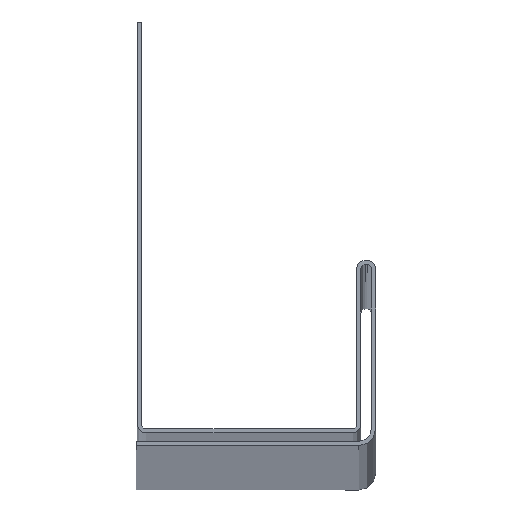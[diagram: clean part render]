
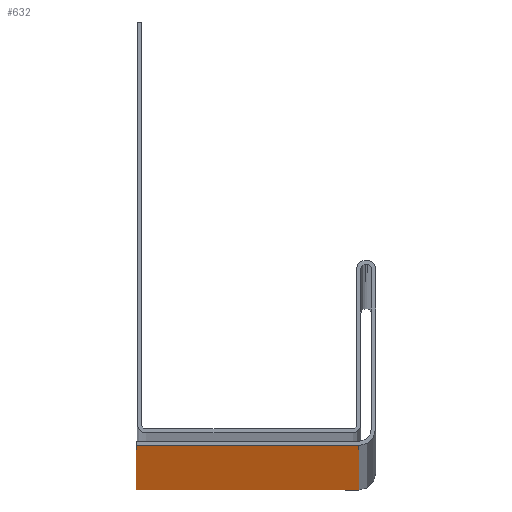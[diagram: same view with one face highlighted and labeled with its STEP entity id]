
A CAD part, top view. The second image highlights one B-rep face of the part: STEP entity #632.
In plain terms, the highlighted planar face has unit normal (0, -1, 0).
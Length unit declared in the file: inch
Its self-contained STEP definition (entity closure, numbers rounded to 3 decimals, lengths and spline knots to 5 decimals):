
#30 = EDGE_CURVE ( 'NONE', #638, #953, #562, .T. ) ;
#54 = DIRECTION ( 'NONE',  ( -1., 0., 0. ) ) ;
#67 = DIRECTION ( 'NONE',  ( 1., 0., 0. ) ) ;
#76 = LINE ( 'NONE', #302, #237 ) ;
#85 = ORIENTED_EDGE ( 'NONE', *, *, #985, .T. ) ;
#124 = VERTEX_POINT ( 'NONE', #798 ) ;
#196 = LINE ( 'NONE', #594, #418 ) ;
#201 = EDGE_CURVE ( 'NONE', #953, #453, #962, .T. ) ;
#237 = VECTOR ( 'NONE', #294, 39.37008 ) ;
#257 = DIRECTION ( 'NONE',  ( 0., 0., -1. ) ) ;
#267 = EDGE_CURVE ( 'NONE', #638, #124, #196, .T. ) ;
#294 = DIRECTION ( 'NONE',  ( 0., 0., -1. ) ) ;
#302 = CARTESIAN_POINT ( 'NONE',  ( -0.00518, -0.06, 120. ) ) ;
#322 = VECTOR ( 'NONE', #525, 39.37008 ) ;
#327 = CARTESIAN_POINT ( 'NONE',  ( 1.045, -0.06, 120. ) ) ;
#418 = VECTOR ( 'NONE', #54, 39.37008 ) ;
#425 = CARTESIAN_POINT ( 'NONE',  ( 1.045, -0.06, 0. ) ) ;
#453 = VERTEX_POINT ( 'NONE', #486 ) ;
#475 = ORIENTED_EDGE ( 'NONE', *, *, #267, .T. ) ;
#486 = CARTESIAN_POINT ( 'NONE',  ( -0.00518, -0.06, 0. ) ) ;
#525 = DIRECTION ( 'NONE',  ( -1., 0., 0. ) ) ;
#562 = LINE ( 'NONE', #605, #581 ) ;
#581 = VECTOR ( 'NONE', #257, 39.37008 ) ;
#594 = CARTESIAN_POINT ( 'NONE',  ( 1.045, -0.06, 120. ) ) ;
#605 = CARTESIAN_POINT ( 'NONE',  ( 1.045, -0.06, 120. ) ) ;
#612 = AXIS2_PLACEMENT_3D ( 'NONE', #327, #865, #67 ) ;
#632 = ADVANCED_FACE ( 'NONE', ( #913 ), #695, .T. ) ;
#638 = VERTEX_POINT ( 'NONE', #870 ) ;
#657 = ORIENTED_EDGE ( 'NONE', *, *, #30, .F. ) ;
#693 = CARTESIAN_POINT ( 'NONE',  ( 1.045, -0.06, 0. ) ) ;
#695 = PLANE ( 'NONE',  #612 ) ;
#798 = CARTESIAN_POINT ( 'NONE',  ( -0.00518, -0.06, 120. ) ) ;
#814 = ORIENTED_EDGE ( 'NONE', *, *, #201, .F. ) ;
#865 = DIRECTION ( 'NONE',  ( 0., -1., 0. ) ) ;
#870 = CARTESIAN_POINT ( 'NONE',  ( 1.045, -0.06, 120. ) ) ;
#913 = FACE_OUTER_BOUND ( 'NONE', #991, .T. ) ;
#953 = VERTEX_POINT ( 'NONE', #693 ) ;
#962 = LINE ( 'NONE', #425, #322 ) ;
#985 = EDGE_CURVE ( 'NONE', #124, #453, #76, .T. ) ;
#991 = EDGE_LOOP ( 'NONE', ( #814, #657, #475, #85 ) ) ;
